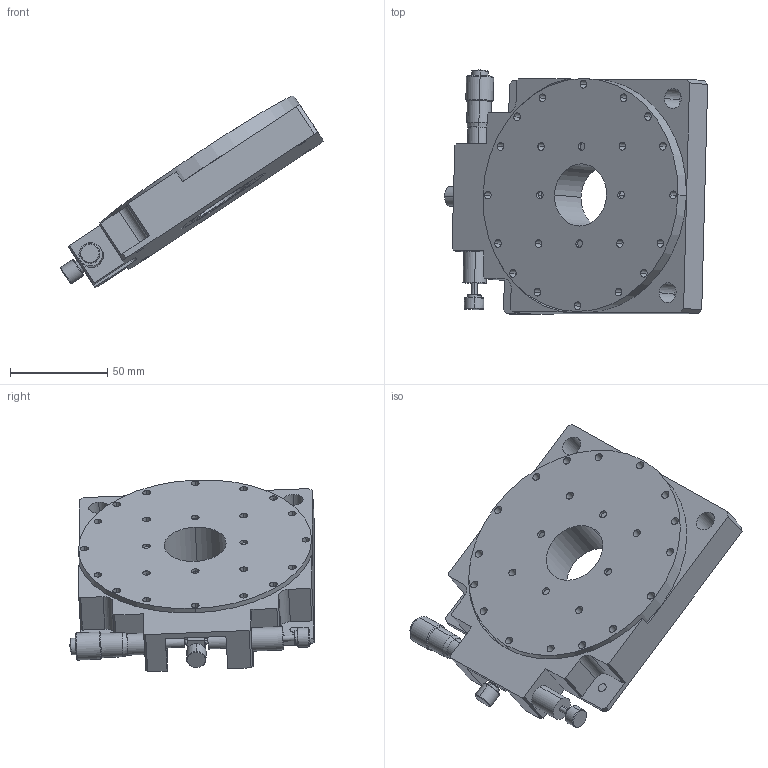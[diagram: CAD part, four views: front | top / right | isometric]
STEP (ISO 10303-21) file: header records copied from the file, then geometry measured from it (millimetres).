
FILE_DESCRIPTION (( 'STEP AP214' ), '1' );
FILE_NAME ('PHL-1206.STEP', '2018-07-24T06:54:52', ( '微软用户' ), ( '微软中国' ), 'SwSTEP 2.0', 'SolidWorks 2015', '' );
FILE_SCHEMA (( 'AUTOMOTIVE_DESIGN' ));
Length unit declared in the file: millimetre
Products named in the file (1): PHL-1206
Bounding box: 135.32 x 125.47 x 98.64 mm (x, y, z)
Volume: 289906.2 mm3; surface area: 113536.5 mm2
Topology: 15 solids, 15 shells, 360 faces, 830 edges, 538 vertices
Faces by surface type: cylinder 184, plane 142, cone 24, bspline 10
Entity records: 14960 total; most frequent: CARTESIAN_POINT 2297, DIRECTION 1906, ORIENTED_EDGE 1628, EDGE_CURVE 814, AXIS2_PLACEMENT_3D 757, VERTEX_POINT 538, EDGE_LOOP 462, CIRCLE 406
